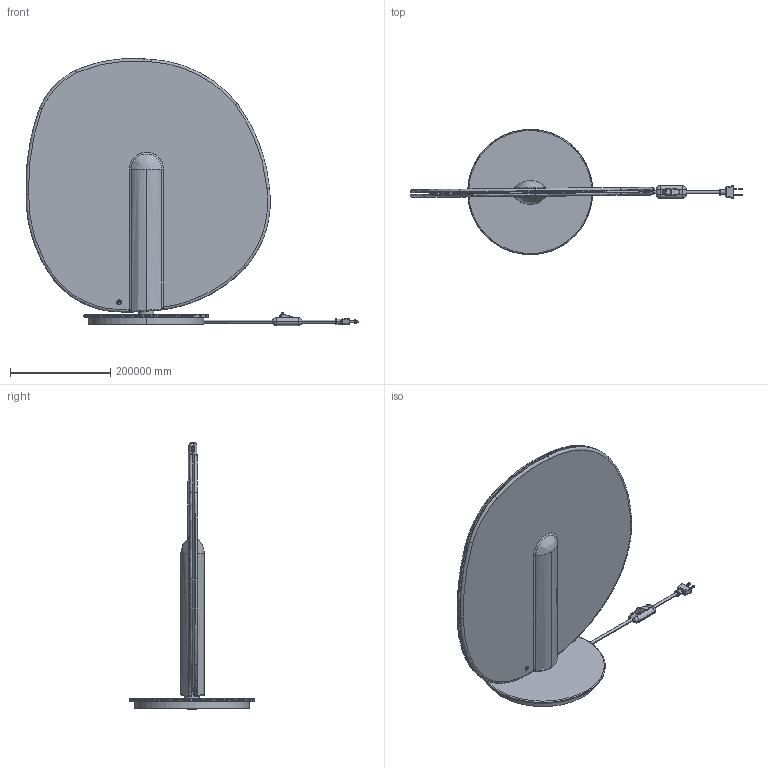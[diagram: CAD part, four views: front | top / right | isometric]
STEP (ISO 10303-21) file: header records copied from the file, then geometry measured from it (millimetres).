
FILE_DESCRIPTION(/* description */ (''),/* implementation_level */ '2;1');
FILE_NAME(/* name */ 'Lollipop Table lamp DF UL',/* time_stamp */ '2019-01-31T12:56:39+01:00',/* author */ (''),/* organization */ (''),/* preprocessor_version */ 'ST-DEVELOPER v15',/* originating_system */ '',/* authorisation */ '');
FILE_SCHEMA (('AUTOMOTIVE_DESIGN'));
Length unit declared in the file: metre
Products named in the file (1): Document
Bounding box: 663355.68 x 250000 x 533677.83 mm (x, y, z)
Volume: 3463083869115069 mm3; surface area: 1103971702660.4 mm2
Topology: 9 solids, 9 shells, 543 faces, 1439 edges, 914 vertices
Faces by surface type: plane 307, bspline 236
Entity records: 22297 total; most frequent: CARTESIAN_POINT 13336, ORIENTED_EDGE 2852, EDGE_CURVE 1426, B_SPLINE_CURVE_WITH_KNOTS 1084, VERTEX_POINT 914, EDGE_LOOP 562, ADVANCED_FACE 543, FACE_OUTER_BOUND 543
